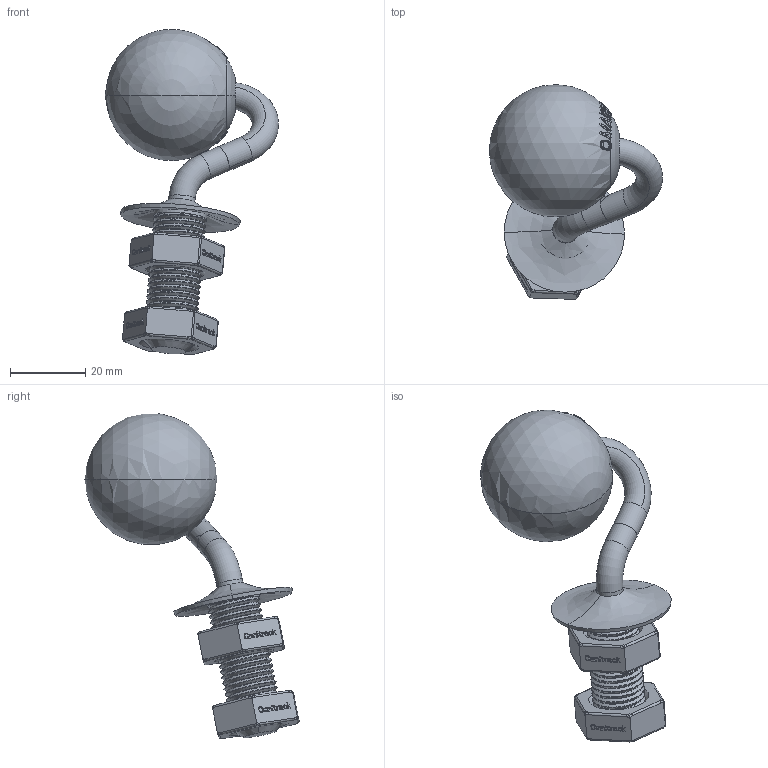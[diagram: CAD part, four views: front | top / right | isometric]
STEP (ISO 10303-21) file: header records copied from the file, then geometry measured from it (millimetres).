
FILE_DESCRIPTION((''),'2;1');
FILE_NAME('OMNIFLOAT35-55RIGHT_ASM','2013-04-16T',('Adam'),(''),'PRO/ENGINEER BY PARAMETRIC TECHNOLOGY CORPORATION, 2009440','PRO/ENGINEER BY PARAMETRIC TECHNOLOGY CORPORATION, 2009440','');
FILE_SCHEMA(('CONFIG_CONTROL_DESIGN'));
Products named in the file (9): PRTOMNIFLOATBALL; PRTOMNIFLOATCAP; PRTOMNIFLOATTUBE; PRTOMNIFLOATTUBE2; OMNIFLOATTUBE35-55_ASM; PRTOMNIFLOATRUBBER; PRTOMNIFLOATBOLT; PRTOMNIFLOATNUT; OMNIFLOAT35-55RIGHT_ASM
Assembly tree (9 placements, depth 3):
  OMNIFLOAT35-55RIGHT_ASM
    PRTOMNIFLOATBALL
    PRTOMNIFLOATCAP
    OMNIFLOATTUBE35-55_ASM
      PRTOMNIFLOATTUBE
      PRTOMNIFLOATTUBE2
    PRTOMNIFLOATRUBBER
    PRTOMNIFLOATBOLT
    PRTOMNIFLOATNUT  x2
Bounding box: 45.93 x 56.76 x 86.16 mm (x, y, z)
Volume: 33852.1 mm3; surface area: 14794.8 mm2
Topology: 8 solids, 8 shells, 2024 faces, 5643 edges, 3709 vertices
Faces by surface type: plane 1810, bspline 90, cylinder 54, sphere 28, torus 28, cone 14
Entity records: 56575 total; most frequent: CARTESIAN_POINT 25923, ORIENTED_EDGE 6568, DIRECTION 6090, EDGE_CURVE 3284, VECTOR 2526, LINE 2526, VERTEX_POINT 2155, AXIS2_PLACEMENT_3D 1782
